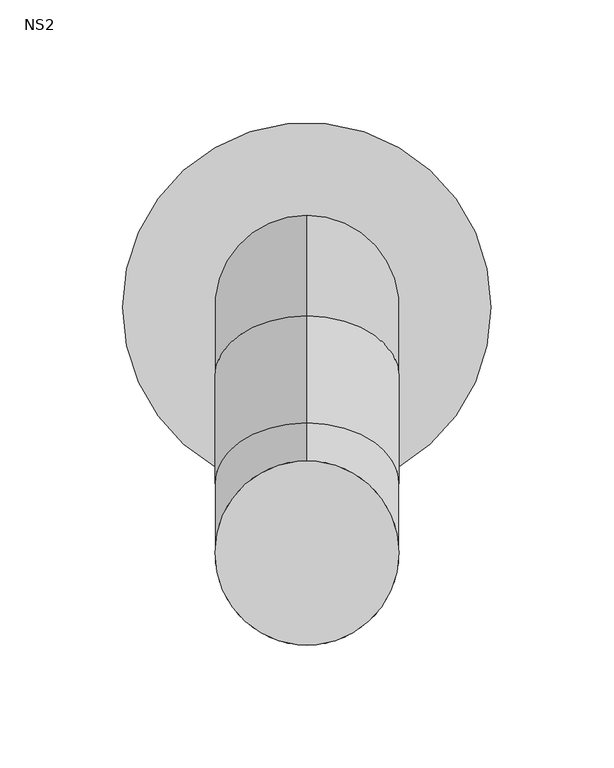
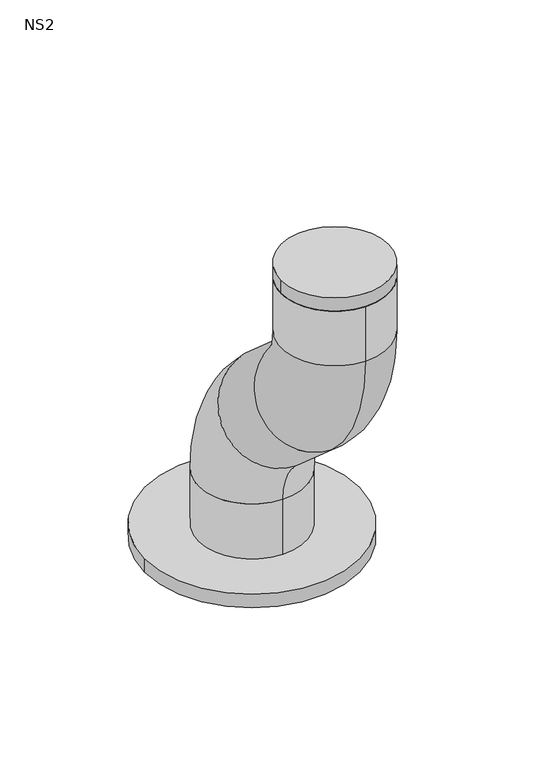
"""IFC4 building model written with IfcOpenShell, lengths in millimetres: unitary equipment geometry, ME_PE_UN_LipuJet-P-OD extension stage 1_ACO : NS2."""

import ifcopenshell
import ifcopenshell.guid

model = None  # the IFC model being written
_history = None  # IfcOwnerHistory: only IFC2X3 demands one
_inside = {}  # id of a spatial element -> (the spatial element, [elements in it])
_under = {}  # id of a project, library or spatial element -> (it, [spatial elements below it])
_declared = {}  # id of a project -> (the project, [libraries it declares])
_typed = {}  # id of a type object -> (the type object, [elements of that type])
_made_of = {}  # id of a material, layer set ... -> (it, [elements and type objects made of it])


def new_model(schema):
    """Start an empty IFC model of exactly this schema.

    Asked for "IFC4X3", IfcOpenShell would pick the latest addendum, in which some entities
    have other attributes; the version numbers below select the first issue.
    IFC2X3 requires an IfcOwnerHistory on every rooted entity: one is made here for all.
    """
    global model, _history
    if schema == "IFC4X3":
        model = ifcopenshell.file(schema_version=(4, 3, 0, 0))
    else:
        model = ifcopenshell.file(schema=schema)
    _inside.clear()
    _under.clear()
    _declared.clear()
    _typed.clear()
    _made_of.clear()
    _history = None
    if model.schema == "IFC2X3":
        org = make("IfcOrganization", Name="unknown")
        user = make(
            "IfcPersonAndOrganization",
            ThePerson=make("IfcPerson", FamilyName="unknown"),
            TheOrganization=org,
        )
        app = make(
            "IfcApplication",
            ApplicationDeveloper=org,
            Version="unknown",
            ApplicationFullName="unknown",
            ApplicationIdentifier="unknown",
        )
        _history = make(
            "IfcOwnerHistory",
            OwningUser=user,
            OwningApplication=app,
            ChangeAction="ADDED",
            CreationDate=0,
        )
    return model


def make(cls, **values):
    """One entity of the class cls with the attributes given. An attribute that is None is left unset."""
    return model.create_entity(
        cls, **{name: value for name, value in values.items() if value is not None}
    )


def rooted(cls, **values):
    """An entity with a GlobalId (a new one), such as an element, a storey or a relation."""
    return make(cls, GlobalId=ifcopenshell.guid.new(), OwnerHistory=_history, **values)


def si_unit(unit_type, name, prefix=None):
    """IfcSIUnit, for example si_unit("LENGTHUNIT", "METRE", prefix="MILLI")."""
    return make("IfcSIUnit", UnitType=unit_type, Prefix=prefix, Name=name)


def assignment(units):
    """IfcUnitAssignment: the units of a project."""
    return None if units is None else make("IfcUnitAssignment", Units=units)


def point(xyz):
    """IfcCartesianPoint."""
    return None if xyz is None else make("IfcCartesianPoint", Coordinates=xyz)


def direction(xyz):
    """IfcDirection."""
    return None if xyz is None else make("IfcDirection", DirectionRatios=xyz)


def frame(location, z_axis=None, x_axis=None):
    """IfcAxis2Placement3D, a coordinate frame: its origin and axes. An axis left out is left unset."""
    return make(
        "IfcAxis2Placement3D",
        Location=point(location),
        Axis=direction(z_axis),
        RefDirection=direction(x_axis),
    )


def frame_2d(location, x_axis=None):
    """IfcAxis2Placement2D, a coordinate frame in the plane: its origin and x axis."""
    return make(
        "IfcAxis2Placement2D", Location=point(location), RefDirection=direction(x_axis)
    )


def origin():
    """The frame at (0, 0, 0) with its axes left unset."""
    return frame((0.0, 0.0, 0.0))


def place(relative_to, where):
    """IfcLocalPlacement: puts the frame where relative to a parent placement (None: the world)."""
    return make(
        "IfcLocalPlacement", PlacementRelTo=relative_to, RelativePlacement=where
    )


def context(
    kind, dimensions, precision=None, world=None, true_north=None, identifier=None
):
    """IfcGeometricRepresentationContext, for example the 3D "Model" context."""
    return make(
        "IfcGeometricRepresentationContext",
        ContextIdentifier=identifier,
        ContextType=kind,
        CoordinateSpaceDimension=dimensions,
        Precision=precision,
        WorldCoordinateSystem=world,
        TrueNorth=true_north,
    )


def project(units=None, contexts=None):
    """IfcProject with its units and contexts."""
    return rooted(
        "IfcProject",
        Name="project",
        RepresentationContexts=contexts,
        UnitsInContext=assignment(units),
    )


def spatial(cls, under=None, at=None, **own):
    """A site, building, storey or space (cls), placed at a placement, below another one or the project."""
    s = rooted(cls, ObjectPlacement=at, **own)
    if under is not None:
        _under.setdefault(under.id(), (under, []))[1].append(s)
    return s


def circle_curve(where, radius):
    """IfcCircle in the frame where."""
    return make("IfcCircle", Position=where, Radius=radius)


def ellipse_curve(where, semi_axis1, semi_axis2):
    """IfcEllipse in the frame where."""
    return make(
        "IfcEllipse", Position=where, SemiAxis1=semi_axis1, SemiAxis2=semi_axis2
    )


def trimmed(basis, trim1, trim2, sense, master):
    """IfcTrimmedCurve: the piece of a basis curve between two trims."""
    return make(
        "IfcTrimmedCurve",
        BasisCurve=basis,
        Trim1=trim1,
        Trim2=trim2,
        SenseAgreement=sense,
        MasterRepresentation=master,
    )


def segment(curve, same_sense, transition):
    """IfcCompositeCurveSegment."""
    return make(
        "IfcCompositeCurveSegment",
        Transition=transition,
        SameSense=same_sense,
        ParentCurve=curve,
    )


def composite_curve(segments, self_intersect=None):
    """IfcCompositeCurve: segments joined end to end."""
    return make("IfcCompositeCurve", Segments=segments, SelfIntersect=self_intersect)


def outline(outer, holes=None, kind="AREA"):
    """IfcArbitraryClosedProfileDef: a profile drawn as a closed curve; with holes, ...WithVoids."""
    if holes is None:
        return make("IfcArbitraryClosedProfileDef", ProfileType=kind, OuterCurve=outer)
    return make(
        "IfcArbitraryProfileDefWithVoids",
        ProfileType=kind,
        OuterCurve=outer,
        InnerCurves=holes,
    )


def extrude(swept, where, along, depth):
    """IfcExtrudedAreaSolid: the profile swept, set in the frame where, extruded along a direction by depth."""
    return make(
        "IfcExtrudedAreaSolid",
        SweptArea=swept,
        Position=where,
        ExtrudedDirection=direction(along),
        Depth=depth,
    )


def shape(context_of_items, identifier, shape_type, items):
    """IfcShapeRepresentation: the items that make up one representation, for example the "Body"."""
    return make(
        "IfcShapeRepresentation",
        ContextOfItems=context_of_items,
        RepresentationIdentifier=identifier,
        RepresentationType=shape_type,
        Items=items,
    )


def source(mapping_origin, context_of_items, identifier, shape_type, items):
    """IfcRepresentationMap: a shape defined once, which mapped items show again and again."""
    return make(
        "IfcRepresentationMap",
        MappingOrigin=mapping_origin,
        MappedRepresentation=shape(context_of_items, identifier, shape_type, items),
    )


def transform(
    local_origin,
    x_axis=None,
    y_axis=None,
    z_axis=None,
    scale=None,
    scale2=None,
    scale3=None,
    uniform=True,
):
    """IfcCartesianTransformationOperator3D, or its non-uniform kind. x_axis, y_axis, z_axis: its Axis1, 2, 3."""
    if uniform:
        return make(
            "IfcCartesianTransformationOperator3D",
            Axis1=direction(x_axis),
            Axis2=direction(y_axis),
            LocalOrigin=point(local_origin),
            Scale=scale,
            Axis3=direction(z_axis),
        )
    return make(
        "IfcCartesianTransformationOperator3DnonUniform",
        Axis1=direction(x_axis),
        Axis2=direction(y_axis),
        LocalOrigin=point(local_origin),
        Scale=scale,
        Axis3=direction(z_axis),
        Scale2=scale2,
        Scale3=scale3,
    )


def mapped(mapping_source, mapping_target):
    """IfcMappedItem: shows the shape of a source again, moved by a transform."""
    return make(
        "IfcMappedItem", MappingSource=mapping_source, MappingTarget=mapping_target
    )


def made_of(thing, what):
    """Note that an element or type object is made of a material, layer set ...; save() writes the relation."""
    if what is not None:
        _made_of.setdefault(what.id(), (what, []))[1].append(thing)
    return thing


def element(
    cls,
    number,
    at=None,
    inside=None,
    cuts=None,
    type_object=None,
    material=None,
    context=None,
    identifier="Body",
    shape_type=None,
    held_by="IfcProductDefinitionShape",
    body=None,
    shapes=None,
    **own,
):
    """One element of the class cls, such as IfcWall. Its Tag is "e" and its number.

    at: its placement. inside: the storey or other place that contains it. cuts: it is an
    opening in that element (IfcRelVoidsElement). A single representation is given by context,
    identifier, shape_type and body (its items); several are given by shapes. held_by: the class
    of the entity that holds the representations. save() writes the other relations.
    """
    e = rooted(cls, Tag="e%d" % number, ObjectPlacement=at, **own)
    if body is not None:
        shapes = [shape(context, identifier, shape_type, body)]
    if shapes is not None:
        e.Representation = make(held_by, Representations=shapes)
    if inside is not None:
        _inside.setdefault(inside.id(), (inside, []))[1].append(e)
    if cuts is not None:
        rooted(
            "IfcRelVoidsElement", RelatingBuildingElement=cuts, RelatedOpeningElement=e
        )
    if type_object is not None:
        _typed.setdefault(type_object.id(), (type_object, []))[1].append(e)
    return made_of(e, material)


def aggregate(whole, parts):
    """IfcRelAggregates: a whole, such as a stair, and the parts it consists of."""
    return rooted("IfcRelAggregates", RelatingObject=whole, RelatedObjects=parts)


def save(model, path):
    """Write the relations noted so far, then the file.

    IfcRelAggregates (storeys below a building ...), IfcRelContainedInSpatialStructure (elements
    in a storey), IfcRelDefinesByType, IfcRelAssociatesMaterial and IfcRelDeclares: one each for
    every whole, place, type object, material and project.
    """
    for whole, parts in _under.values():
        aggregate(whole, parts)
    for where, things in _inside.values():
        rooted(
            "IfcRelContainedInSpatialStructure",
            RelatedElements=things,
            RelatingStructure=where,
        )
    for kind, things in _typed.values():
        rooted("IfcRelDefinesByType", RelatedObjects=things, RelatingType=kind)
    for what, things in _made_of.values():
        rooted("IfcRelAssociatesMaterial", RelatedObjects=things, RelatingMaterial=what)
    for by, libraries in _declared.values():
        rooted("IfcRelDeclares", RelatingContext=by, RelatedDefinitions=libraries)
    model.write(path)


def plane_surface(at):
    """IfcPlane: the flat surface through the origin of the frame at, square to its z axis."""
    return make("IfcPlane", Position=at)


def cylinder_surface(at, radius):
    """IfcCylindricalSurface: all points at the distance radius from the z axis of the frame at."""
    return make("IfcCylindricalSurface", Position=at, Radius=radius)


def revolved_surface(curve, axis_point, axis_direction):
    """IfcSurfaceOfRevolution: the curve turned about the line through axis_point along axis_direction."""
    return make(
        "IfcSurfaceOfRevolution",
        SweptCurve=make("IfcArbitraryOpenProfileDef", ProfileType="CURVE", Curve=curve),
        AxisPosition=make("IfcAxis1Placement", Location=point(axis_point), Axis=direction(axis_direction)),
    )


def advanced_brep(points, edges, surfaces, faces):
    """IfcAdvancedBrep: a solid bounded by faces that lie on surfaces and meet in shared edges.

    An edge is (start, end): straight between two places in points (the first is 0);
    or (start, end, curve); or (start, end, curve, False) where it runs against its curve.
    A face is (place in surfaces, loops), or (place, loops, False) where it looks against
    its surface's normal. A loop lists edges by number (the first is 1), with a minus sign
    where the edge is run from its end to its start. The first loop is the outer one.
    """
    corners = [point(p) for p in points]
    vertices = [make("IfcVertexPoint", VertexGeometry=c) for c in corners]
    made = []
    for start, end, *more in edges:
        made.append(
            make(
                "IfcEdgeCurve",
                EdgeStart=vertices[start],
                EdgeEnd=vertices[end],
                EdgeGeometry=more[0] if more else make("IfcPolyline", Points=[corners[start], corners[end]]),
                SameSense=more[1] if len(more) > 1 else True,
            )
        )
    hull = []
    for where, loops, *sense in faces:
        bounds = []
        for j, loop in enumerate(loops):
            ring = [make("IfcOrientedEdge", EdgeElement=made[abs(k) - 1], Orientation=k > 0) for k in loop]
            bounds.append(
                make(
                    "IfcFaceOuterBound" if j == 0 else "IfcFaceBound",
                    Bound=make("IfcEdgeLoop", EdgeList=ring),
                    Orientation=True,
                )
            )
        hull.append(make("IfcAdvancedFace", Bounds=bounds, FaceSurface=surfaces[where], SameSense=sense[0] if sense else True))
    return make("IfcAdvancedBrep", Outer=make("IfcClosedShell", CfsFaces=hull))


def ns2_aebbb962(model_context):
    return source(origin(), model_context, "Body", "SolidModel", [
        advanced_brep(
        [(165.0, -22.5, 1252.0), (165.0, -97.5, 1252.0), (165.0, -22.5, 1302.1666667), (165.0, -97.5, 1302.1666667), (165.0, -112.9188525, 1336.1888735), (165.0, -63.4777932, 1392.5855192), (165.0, -107.0811475, 1430.8111265), (165.0, -156.5222068, 1374.4144808), (165.0, -197.5, 1464.8333333), (165.0, -122.5, 1464.8333333), (165.0, -122.5, 1505.0), (165.0, -197.5, 1505.0)],
        [
            (0, 1, circle_curve(frame((165.0, -60.0, 1252.0), z_axis=(0.0, 0.0, -1.0), x_axis=(0.0, -1.0, 0.0)), 37.5)),
            (1, 0, circle_curve(frame((165.0, -60.0, 1252.0), z_axis=(0.0, 0.0, -1.0), x_axis=(0.0, -1.0, 0.0)), 37.5)),
            (0, 2),
            (2, 3, circle_curve(frame((165.0, -60.0, 1302.1666667), z_axis=(0.0, 0.0, -1.0), x_axis=(0.0, -1.0, 0.0)), 37.5)),
            (3, 1),
            (3, 2, circle_curve(frame((165.0, -60.0, 1302.1666667), z_axis=(0.0, 0.0, -1.0), x_axis=(0.0, -1.0, 0.0)), 37.5)),
            (4, 3, circle_curve(frame((165.0, -142.7449872, 1302.1666667), z_axis=(-1.0, 0.0, 0.0), x_axis=(0.0, 1.0, 0.0)), 45.2449872)),
            (2, 5, circle_curve(frame((165.0, -142.7449872, 1302.1666667), z_axis=(1.0, 0.0, 0.0), x_axis=(0.0, 1.0, 0.0)), 120.2449872)),
            (5, 4, circle_curve(frame((165.0, -88.1983228, 1364.3871964), z_axis=(0.0, 0.7519552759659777, -0.6592141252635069), x_axis=(0.0, -0.6592141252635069, -0.7519552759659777)), 37.5)),
            (4, 5, circle_curve(frame((165.0, -88.1983228, 1364.3871964), z_axis=(0.0, 0.7519552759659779, -0.6592141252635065), x_axis=(0.0, -0.6592141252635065, -0.7519552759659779)), 37.5)),
            (5, 6),
            (6, 7, circle_curve(frame((165.0, -131.8016772, 1402.6128036), z_axis=(0.0, 0.7519552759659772, -0.6592141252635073), x_axis=(0.0, -0.6592141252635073, -0.7519552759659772)), 37.5)),
            (7, 4),
            (7, 6, circle_curve(frame((165.0, -131.8016772, 1402.6128036), z_axis=(0.0, 0.7519552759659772, -0.6592141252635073), x_axis=(0.0, -0.6592141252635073, -0.7519552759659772)), 37.5)),
            (8, 7, circle_curve(frame((165.0, -77.2550128, 1464.8333333), z_axis=(1.0, 0.0, 0.0), x_axis=(0.0, -0.6592141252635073, -0.7519552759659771)), 120.2449872)),
            (6, 9, circle_curve(frame((165.0, -77.2550128, 1464.8333333), z_axis=(-1.0, 0.0, 0.0), x_axis=(0.0, -0.6592141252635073, -0.7519552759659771)), 45.2449872)),
            (9, 8, circle_curve(frame((165.0, -160.0, 1464.8333333), z_axis=(0.0, 0.0, -1.0), x_axis=(0.0, -1.0, 0.0)), 37.5)),
            (8, 9, circle_curve(frame((165.0, -160.0, 1464.8333333), z_axis=(0.0, 0.0, -1.0), x_axis=(0.0, -1.0, 0.0)), 37.5)),
            (10, 11, circle_curve(frame((165.0, -160.0, 1505.0), z_axis=(0.0, 0.0, 1.0), x_axis=(0.0, -1.0, 0.0)), 37.5)),
            (11, 10, circle_curve(frame((165.0, -160.0, 1505.0), z_axis=(0.0, 0.0, 1.0), x_axis=(0.0, -1.0, 0.0)), 37.5)),
            (9, 10),
            (11, 8),
        ],
        [
            plane_surface(frame((165.0, -60.0, 1252.0), z_axis=(0.0, 0.0, -1.0), x_axis=(1.0, 0.0, 0.0))),
            cylinder_surface(frame((165.0, -60.0, 1252.0), z_axis=(0.0, 0.0, -1.0), x_axis=(0.0, -1.0, 0.0)), 37.5),
            revolved_surface(trimmed(ellipse_curve(frame((165.0, -60.0, 1302.1666667), z_axis=(0.0, 0.0, -1.0), x_axis=(0.0, -1.0, 0.0)), 37.5, 37.5), [point((165.0, -22.5, 1302.1666667))], [point((165.0, -97.5, 1302.1666667))], True, "CARTESIAN"), (165.0, -142.7449872, 1302.1666667), (1.0, 0.0, 0.0)),
            revolved_surface(trimmed(ellipse_curve(frame((165.0, -60.0, 1302.1666667), z_axis=(0.0, 0.0, -1.0), x_axis=(0.0, -1.0, 0.0)), 37.5, 37.5), [point((165.0, -97.5, 1302.1666667))], [point((165.0, -22.5, 1302.1666667))], True, "CARTESIAN"), (165.0, -142.7449872, 1302.1666667), (1.0, 0.0, 0.0)),
            cylinder_surface(frame((165.0, -88.1983228, 1364.3871964), z_axis=(0.0, 0.7519552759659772, -0.6592141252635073), x_axis=(0.0, -0.6592141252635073, -0.7519552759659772)), 37.5),
            revolved_surface(trimmed(ellipse_curve(frame((165.0, -131.8016772, 1402.6128036), z_axis=(0.0, 0.7519552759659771, -0.6592141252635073), x_axis=(0.0, -0.6592141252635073, -0.7519552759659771)), 37.5, 37.5), [point((165.0, -107.0811475, 1430.8111265))], [point((165.0, -156.5222068, 1374.4144808))], True, "CARTESIAN"), (165.0, -77.2550128, 1464.8333333), (-1.0, 0.0, 0.0)),
            revolved_surface(trimmed(ellipse_curve(frame((165.0, -131.8016772, 1402.6128036), z_axis=(0.0, 0.7519552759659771, -0.6592141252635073), x_axis=(0.0, -0.6592141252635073, -0.7519552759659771)), 37.5, 37.5), [point((165.0, -156.5222068, 1374.4144808))], [point((165.0, -107.0811475, 1430.8111265))], True, "CARTESIAN"), (165.0, -77.2550128, 1464.8333333), (-1.0, 0.0, 0.0)),
            plane_surface(frame((165.0, -160.0, 1505.0), z_axis=(0.0, 0.0, 1.0), x_axis=(1.0, 0.0, 0.0))),
            cylinder_surface(frame((165.0, -160.0, 1464.8333333), z_axis=(0.0, 0.0, -1.0), x_axis=(0.0, -1.0, 0.0)), 37.5),
        ],
        [
            (0, [[1, 2]]),
            (1, [[-1, 3, 4, 5]]),
            (1, [[-2, -5, 6, -3]]),
            (2, [[7, -4, 8, 9]]),
            (3, [[-8, -6, -7, 10]]),
            (4, [[-9, 11, 12, 13]]),
            (4, [[-10, -13, 14, -11]]),
            (5, [[15, -12, 16, 17]]),
            (6, [[-16, -14, -15, 18]]),
            (7, [[19, 20]]),
            (8, [[-17, 21, -20, 22]]),
            (8, [[-18, -22, -19, -21]]),
        ],
    ),
        extrude(outline(composite_curve([segment(trimmed(circle_curve(frame_2d((165.0, -160.0)), 37.5), [point((127.5, -160.0))], [point((202.5, -160.0))], False, "CARTESIAN"), True, "CONTINUOUS"), segment(trimmed(circle_curve(frame_2d((165.0, -160.0)), 37.5), [point((202.5, -160.0))], [point((127.5, -160.0))], False, "CARTESIAN"), True, "CONTINUOUS")], self_intersect=False)), frame((0.0, 0.0, 1505.0), z_axis=(0.0, 0.0, 1.0), x_axis=(1.0, 0.0, 0.0)), (0.0, 0.0, 1.0), 10.0),
        extrude(outline(composite_curve([segment(trimmed(circle_curve(frame_2d((165.0, -60.0)), 75.0), [point((90.0, -60.0))], [point((240.0, -60.0))], False, "CARTESIAN"), True, "CONTINUOUS"), segment(trimmed(circle_curve(frame_2d((165.0, -60.0)), 75.0), [point((240.0, -60.0))], [point((90.0, -60.0))], False, "CARTESIAN"), True, "CONTINUOUS")], self_intersect=False)), frame((0.0, 0.0, 1252.0), z_axis=(0.0, 0.0, 1.0), x_axis=(1.0, 0.0, 0.0)), (0.0, 0.0, 1.0), 10.0),
    ])


if __name__ == "__main__":
    model = new_model("IFC4")
    model_context = context("Model", 3, world=origin())
    ifc_project = project(units=[si_unit("LENGTHUNIT", "METRE", prefix="MILLI")], contexts=[model_context])
    site = spatial("IfcSite", under=ifc_project)
    building = spatial("IfcBuilding", under=site)
    placement = place(None, origin())
    ns2_shape = ns2_aebbb962(model_context)
    element("IfcUnitaryEquipment", 1, ObjectType="ME_PE_UN_LipuJet-P-OD extension stage 1_ACO : NS2", at=placement, inside=building, context=model_context, shape_type="MappedRepresentation", body=[
        mapped(ns2_shape, transform((0.0, 0.0, 0.0), x_axis=(1.0, 0.0, 0.0), y_axis=(0.0, 1.0, 0.0), z_axis=(0.0, 0.0, 1.0))),
    ])
    save(model, "model.ifc")
